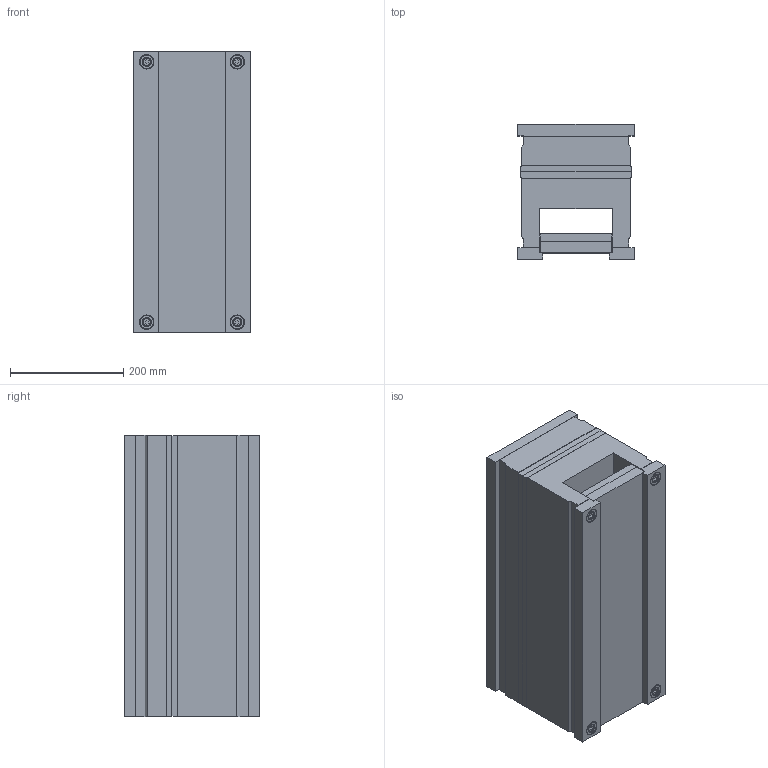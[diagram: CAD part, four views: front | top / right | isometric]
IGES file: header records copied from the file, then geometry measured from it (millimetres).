
Start section: SolidWorks IGES FILE using analytic representation for surfaces
Global section: file name: C:\Documents and Settings\K.P\My Documents\Mechanical\ALMO\CATL_EUR\RECT\1967.IGS; native system: SolidWorks 2001Plus by SolidWorks Corporation; preprocessor: Version 5.3; author: Pavel; date: 020709.092155; units: millimetre
Bounding box: 206 x 239 x 498 mm (x, y, z)
Surface area: 1248183.1 mm2 (no closed solid volume)
Topology: 0 solids, 0 shells, 706 faces, 10312 edges, 10304 vertices
Faces by surface type: revolution 452, bspline 254
